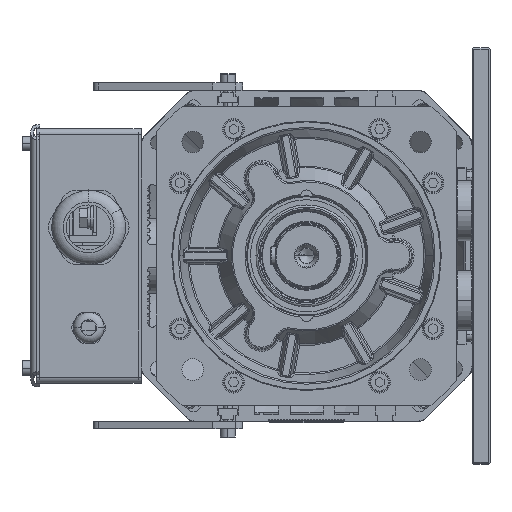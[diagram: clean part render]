
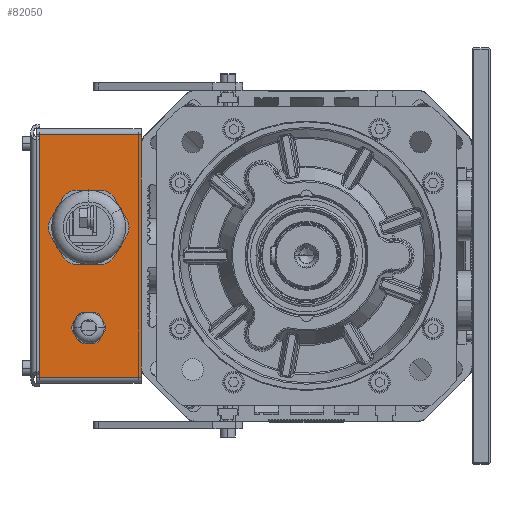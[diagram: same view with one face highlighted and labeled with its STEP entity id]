
A CAD part, left-side view. The second image highlights one B-rep face of the part: STEP entity #82050.
In plain terms, the highlighted planar face has unit normal (-1, 0, 0).
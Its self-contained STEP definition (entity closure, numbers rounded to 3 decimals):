
#79874=DIRECTION('',(0.,0.,1.));
#79875=VECTOR('',#79874,162.);
#79876=CARTESIAN_POINT('',(224.,110.5,-81.));
#79877=LINE('',#79876,#79875);
#80151=CARTESIAN_POINT('',(224.,145.5,-48.));
#80152=DIRECTION('',(-1.,0.,0.));
#80153=DIRECTION('',(0.,1.,0.));
#80154=AXIS2_PLACEMENT_3D('',#80151,#80152,#80153);
#80156=CARTESIAN_POINT('',(224.,145.5,-48.));
#80157=DIRECTION('',(-1.,0.,0.));
#80158=DIRECTION('',(0.,-1.,0.));
#80159=AXIS2_PLACEMENT_3D('',#80156,#80157,#80158);
#80161=CARTESIAN_POINT('',(224.,145.5,19.));
#80162=DIRECTION('',(-1.,0.,0.));
#80163=DIRECTION('',(0.,1.,0.));
#80164=AXIS2_PLACEMENT_3D('',#80161,#80162,#80163);
#80166=CARTESIAN_POINT('',(224.,145.5,19.));
#80167=DIRECTION('',(-1.,0.,0.));
#80168=DIRECTION('',(0.,-1.,0.));
#80169=AXIS2_PLACEMENT_3D('',#80166,#80167,#80168);
#80171=DIRECTION('',(0.,0.,1.));
#80172=VECTOR('',#80171,162.);
#80173=CARTESIAN_POINT('',(224.,180.5,-81.));
#80174=LINE('',#80173,#80172);
#81093=DIRECTION('',(0.,-1.,0.));
#81094=VECTOR('',#81093,70.);
#81095=CARTESIAN_POINT('',(224.,180.5,-81.));
#81096=LINE('',#81095,#81094);
#81113=DIRECTION('',(0.,1.,0.));
#81114=VECTOR('',#81113,70.);
#81115=CARTESIAN_POINT('',(224.,110.5,81.));
#81116=LINE('',#81115,#81114);
#81433=CARTESIAN_POINT('',(224.,155.5,-48.));
#81434=CARTESIAN_POINT('',(224.,135.5,-48.));
#81435=VERTEX_POINT('',#81433);
#81436=VERTEX_POINT('',#81434);
#81437=CARTESIAN_POINT('',(224.,170.5,19.));
#81438=CARTESIAN_POINT('',(224.,120.5,19.));
#81439=VERTEX_POINT('',#81437);
#81440=VERTEX_POINT('',#81438);
#81585=CARTESIAN_POINT('',(224.,110.5,-81.));
#81587=VERTEX_POINT('',#81585);
#81598=CARTESIAN_POINT('',(224.,110.5,81.));
#81600=VERTEX_POINT('',#81598);
#81633=CARTESIAN_POINT('',(224.,180.5,81.));
#81635=VERTEX_POINT('',#81633);
#81646=CARTESIAN_POINT('',(224.,180.5,-81.));
#81648=VERTEX_POINT('',#81646);
#82025=CARTESIAN_POINT('',(224.,110.5,-85.));
#82026=DIRECTION('',(-1.,0.,0.));
#82027=DIRECTION('',(0.,0.,1.));
#82028=AXIS2_PLACEMENT_3D('',#82025,#82026,#82027);
#82029=PLANE('',#82028);
#82031=ORIENTED_EDGE('',*,*,#82030,.F.);
#82032=ORIENTED_EDGE('',*,*,#81832,.F.);
#82034=ORIENTED_EDGE('',*,*,#82033,.F.);
#82035=ORIENTED_EDGE('',*,*,#81892,.T.);
#82036=EDGE_LOOP('',(#82031,#82032,#82034,#82035));
#82037=FACE_OUTER_BOUND('',#82036,.F.);
#82039=ORIENTED_EDGE('',*,*,#82038,.T.);
#82041=ORIENTED_EDGE('',*,*,#82040,.T.);
#82042=EDGE_LOOP('',(#82039,#82041));
#82043=FACE_BOUND('',#82042,.F.);
#82045=ORIENTED_EDGE('',*,*,#82044,.T.);
#82047=ORIENTED_EDGE('',*,*,#82046,.T.);
#82048=EDGE_LOOP('',(#82045,#82047));
#82049=FACE_BOUND('',#82048,.F.);
#82050=ADVANCED_FACE('',(#82037,#82043,#82049),#82029,.T.);
#80155=CIRCLE('',#80154,10.);
#80160=CIRCLE('',#80159,10.);
#80165=CIRCLE('',#80164,25.);
#80170=CIRCLE('',#80169,25.);
#81832=EDGE_CURVE('',#81587,#81600,#79877,.T.);
#81892=EDGE_CURVE('',#81648,#81635,#80174,.T.);
#82030=EDGE_CURVE('',#81600,#81635,#81116,.T.);
#82033=EDGE_CURVE('',#81648,#81587,#81096,.T.);
#82038=EDGE_CURVE('',#81439,#81440,#80165,.T.);
#82040=EDGE_CURVE('',#81440,#81439,#80170,.T.);
#82044=EDGE_CURVE('',#81435,#81436,#80155,.T.);
#82046=EDGE_CURVE('',#81436,#81435,#80160,.T.);
